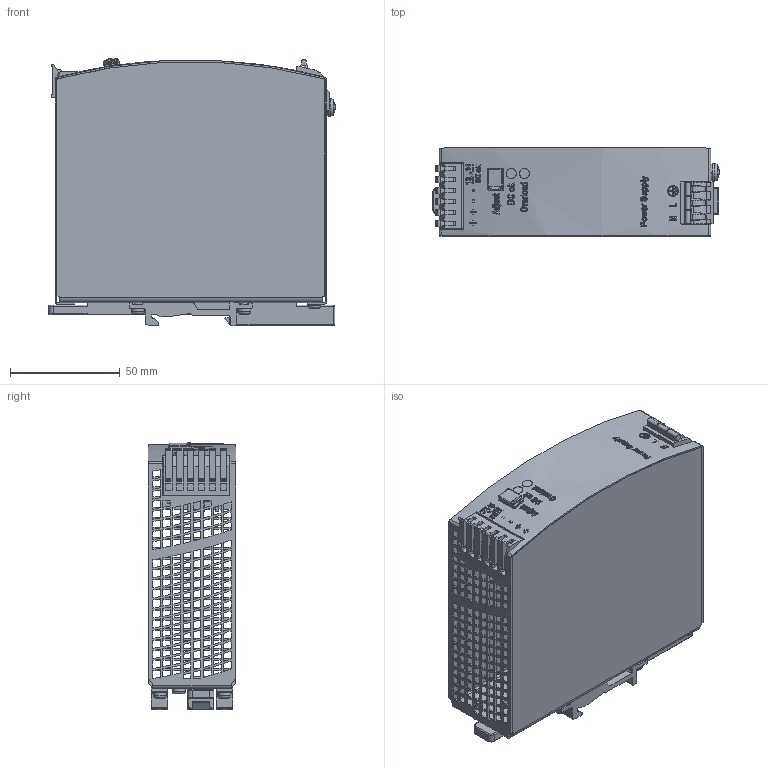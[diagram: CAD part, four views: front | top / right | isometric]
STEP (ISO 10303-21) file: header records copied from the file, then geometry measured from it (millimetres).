
FILE_DESCRIPTION((''),'2;1');
FILE_NAME('C:\Users\rahns\Desktop\Marketing\SD1QS5-241-A1SR1_SC_2014-05-22.stp','2014-05-22T13:26:19',('rahns'),(''),'Autodesk Inventor 2009','Autodesk Inventor 2009','');
FILE_SCHEMA(('AUTOMOTIVE_DESIGN { 1 0 10303 214 1 1 1 1 }'));
Length unit declared in the file: millimetre
Products named in the file (13): 348; HOUSING COVER 348; HOUSING BODY 348; TERMINAL 3P R6,35; TERMINAL 6P R5; WASHER 4; SCREW 4x8; SLIDER; SCREW 3x6; T HOLDER; POTENTIOMETER COVER; LED GN; LED RD
Assembly tree (18 placements, depth 2):
  348
    HOUSING COVER 348
    HOUSING BODY 348
    TERMINAL 3P R6,35
    TERMINAL 6P R5
    WASHER 4
    SCREW 4x8
    SLIDER
    SCREW 3x6  x6
    T HOLDER  x2
    POTENTIOMETER COVER
    LED GN
    LED RD
Bounding box: 130.77 x 40 x 121.98 mm (x, y, z)
Volume: 78954.1 mm3; surface area: 101465.7 mm2
Topology: 18 solids, 18 shells, 2595 faces, 7354 edges, 4880 vertices
Faces by surface type: plane 1903, bspline 326, cylinder 307, torus 26, cone 20, sphere 13
Full cylindrical faces by diameter (mm): 1 x6, 1.25 x3, 3 x6, 3.1 x4, 3.621 x1, 4 x1, 4.355 x1, 4.5 x1, 4.6 x2, 5 x3, 6 x6
Entity records: 181579 total; most frequent: CARTESIAN_POINT 117878, ORIENTED_EDGE 13948, DIRECTION 11030, EDGE_CURVE 6974, VECTOR 5450, LINE 5450, VERTEX_POINT 4641, EDGE_LOOP 3161
